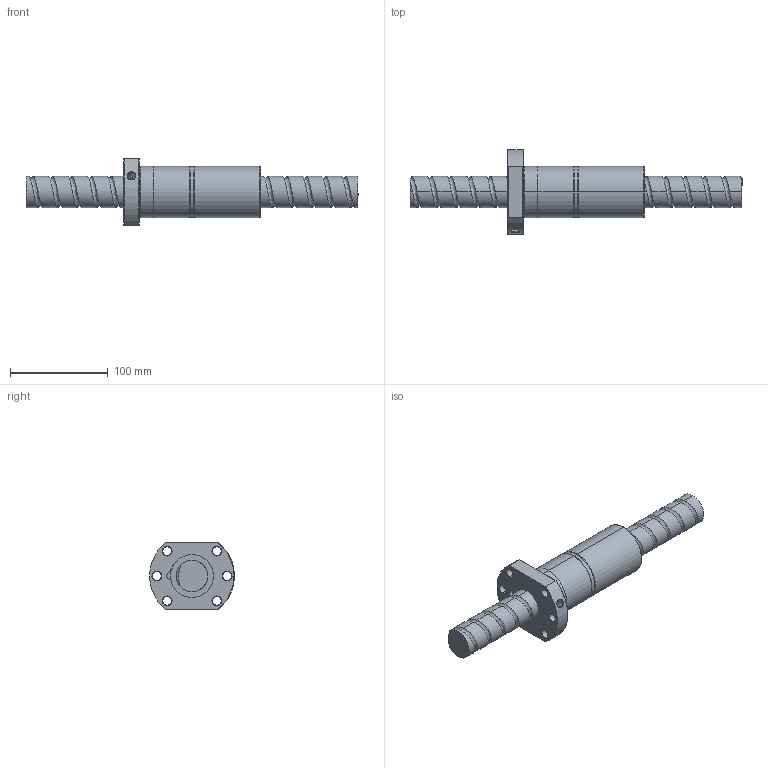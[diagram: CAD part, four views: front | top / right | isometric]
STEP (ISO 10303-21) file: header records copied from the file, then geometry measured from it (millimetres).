
FILE_DESCRIPTION (( 'STEP AP214' ), '1' );
FILE_NAME ('FDDC03220T2-D-C.STEP', '2010-07-06T05:17:01', ( 'XPAUTO' ), ( 'XPAUTO' ), 'SwSTEP 2.0', 'SolidWorks 2007', '' );
FILE_SCHEMA (( 'AUTOMOTIVE_DESIGN' ));
Length unit declared in the file: millimetre
Products named in the file (3): FDDC03220T2-D-C.sldasm-Part-2_預設; FDDC03220T2-D-C.sldasm-Part-1_預設; FDDC03220T2-D-C
Assembly tree (2 placements, depth 2):
  FDDC03220T2-D-C
    FDDC03220T2-D-C.sldasm-Part-1_預設
    FDDC03220T2-D-C.sldasm-Part-2_預設
Bounding box: 340 x 86.7 x 69 mm (x, y, z)
Volume: 497430.4 mm3; surface area: 88806.4 mm2
Topology: 2 solids, 2 shells, 138 faces, 344 edges, 215 vertices
Faces by surface type: cylinder 79, cone 24, plane 22, torus 8, bspline 5
Entity records: 25979 total; most frequent: CARTESIAN_POINT 22695, ORIENTED_EDGE 688, DIRECTION 644, EDGE_CURVE 344, AXIS2_PLACEMENT_3D 262, VERTEX_POINT 215, EDGE_LOOP 159, FACE_OUTER_BOUND 138
